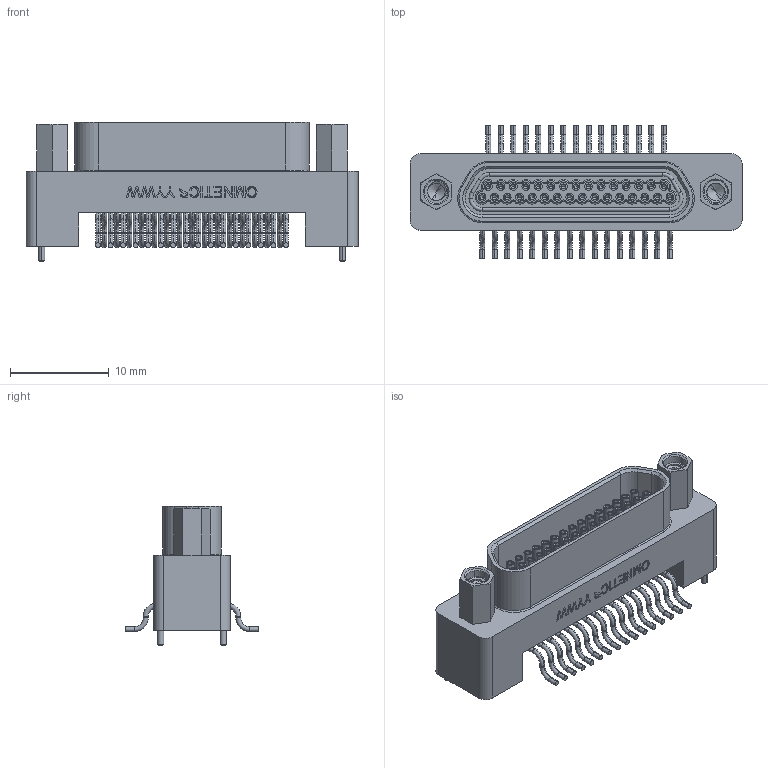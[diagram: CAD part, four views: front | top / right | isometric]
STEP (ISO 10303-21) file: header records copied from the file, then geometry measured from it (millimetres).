
FILE_DESCRIPTION (( 'STEP AP214' ), '1' );
FILE_NAME ('A99701-031 REV A.STEP', '2012-11-08T22:07:02', ( '' ), ( '' ), 'SwSTEP 2.0', 'SolidWorks 2012', '' );
FILE_SCHEMA (( 'AUTOMOTIVE_DESIGN' ));
Length unit declared in the file: inch
Products named in the file (1): A99701-031 (REV 2)
Bounding box: 33.66 x 13.51 x 14.1 mm (x, y, z)
Volume: 1580.3 mm3; surface area: 3369.3 mm2
Topology: 1 solids, 36 shells, 1414 faces, 3372 edges, 2087 vertices
Faces by surface type: cylinder 636, plane 326, torus 261, cone 139, bspline 52
Entity records: 51958 total; most frequent: CARTESIAN_POINT 18614, DIRECTION 7311, ORIENTED_EDGE 6612, EDGE_CURVE 3306, AXIS2_PLACEMENT_3D 3047, VERTEX_POINT 2087, CIRCLE 1684, EDGE_LOOP 1603
